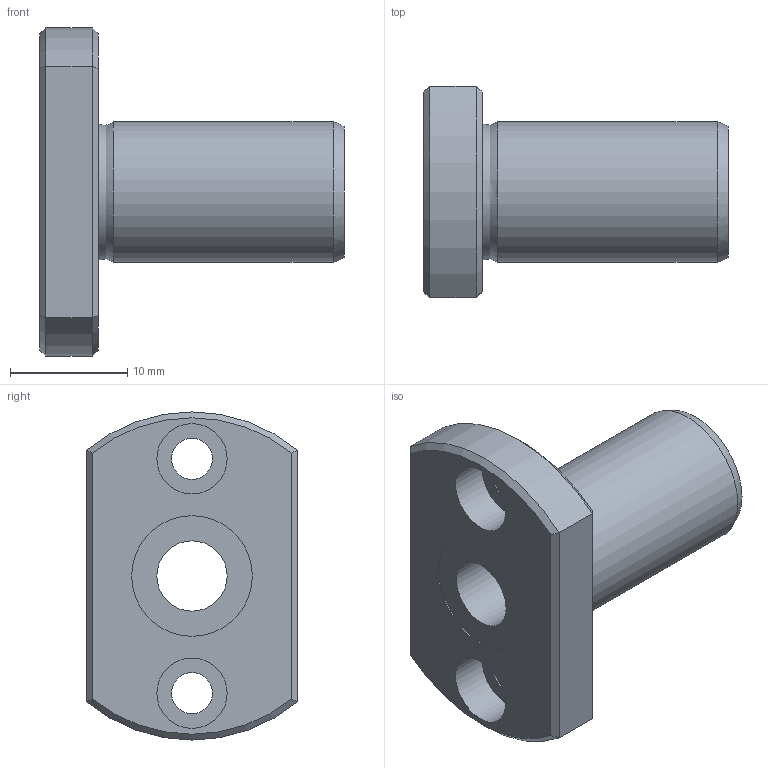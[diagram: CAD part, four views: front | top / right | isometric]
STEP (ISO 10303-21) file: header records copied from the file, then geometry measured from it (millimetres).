
FILE_DESCRIPTION((''),'2;1');
FILE_NAME('D:\製品 (図面)\カタログ用3D\メンテナンスフリー関連\STEP形式\LFT-MF\LFT6MF.stp','2010-06-01T16:06:05',('Tsuchiya'),(''),'Autodesk Inventor 10','Autodesk Inventor 10','');
FILE_SCHEMA(('AUTOMOTIVE_DESIGN { 1 0 10303 214 1 1 1 1 }'));
Length unit declared in the file: millimetre
Products named in the file (1): LFT6MF
Bounding box: 26 x 18 x 28 mm (x, y, z)
Volume: 3709 mm3; surface area: 2639.4 mm2
Topology: 1 solids, 1 shells, 29 faces, 56 edges, 34 vertices
Faces by surface type: plane 13, cylinder 10, cone 4, bspline 2
Full cylindrical faces by diameter (mm): 3.5 x2, 6 x3, 10.3 x2, 12 x1
Entity records: 809 total; most frequent: CARTESIAN_POINT 222, DIRECTION 120, ORIENTED_EDGE 92, AXIS2_PLACEMENT_3D 54, EDGE_LOOP 50, EDGE_CURVE 46, VERTEX_POINT 34, FACE_OUTER_BOUND 29
